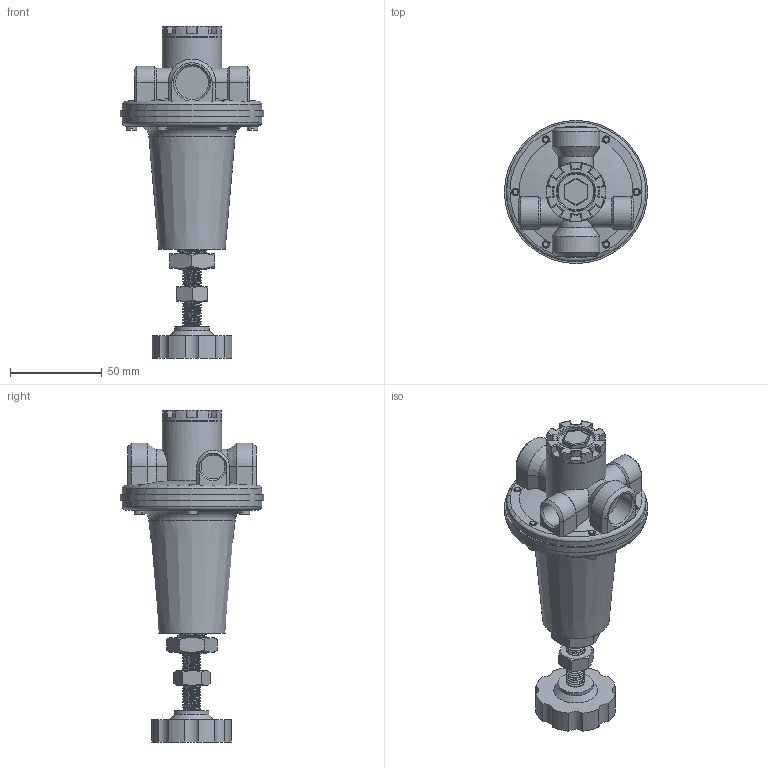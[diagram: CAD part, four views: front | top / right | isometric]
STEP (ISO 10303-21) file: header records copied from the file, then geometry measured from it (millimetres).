
FILE_DESCRIPTION(/* description */ (''),/* implementation_level */ '2;1');
FILE_NAME(/* name */ 'B-R119-04xP.step',/* time_stamp */ '2024-08-22T14:43:45+02:00',/* author */ (''),/* organization */ (''),/* preprocessor_version */ 'ST-DEVELOPER v20',/* originating_system */ 'Autodesk Translation Framework v13.14.0.145',/* authorisation */ '');
FILE_SCHEMA (('AUTOMOTIVE_DESIGN { 1 0 10303 214 3 1 1 }'));
Length unit declared in the file: millimetre
Products named in the file (6): B-R119-03XP; B-R119-03x; DIN EN ISO 1207 M3,5 x 14; R119-Knauf; 90592A024; 90695A125
Assembly tree (10 placements, depth 2):
  B-R119-03XP
    B-R119-03x
    DIN EN ISO 1207 M3,5 x 14  x6
    R119-Knauf
    90592A024
    90695A125
Bounding box: 78 x 78 x 180.9 mm (x, y, z)
Volume: 240251 mm3; surface area: 43574.1 mm2
Topology: 10 solids, 10 shells, 377 faces, 1090 edges, 741 vertices
Faces by surface type: plane 145, cylinder 122, cone 65, torus 33, bspline 12
Full cylindrical faces by diameter (mm): 3.132 x6, 3.5 x6, 4 x6, 8.051 x3, 10 x4, 13 x2, 13.402 x2, 14.137 x6, 15.85 x7, 16 x3, 18 x2, 19 x1, 20.5 x1, 32.5 x2, 76 x2, 78 x1
Entity records: 49527 total; most frequent: CARTESIAN_POINT 41478, ORIENTED_EDGE 1870, DIRECTION 1411, EDGE_CURVE 935, VERTEX_POINT 641, AXIS2_PLACEMENT_3D 562, B_SPLINE_CURVE_WITH_KNOTS 345, EDGE_LOOP 326
